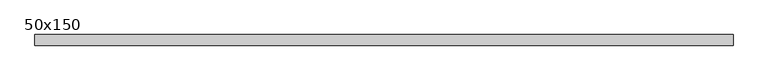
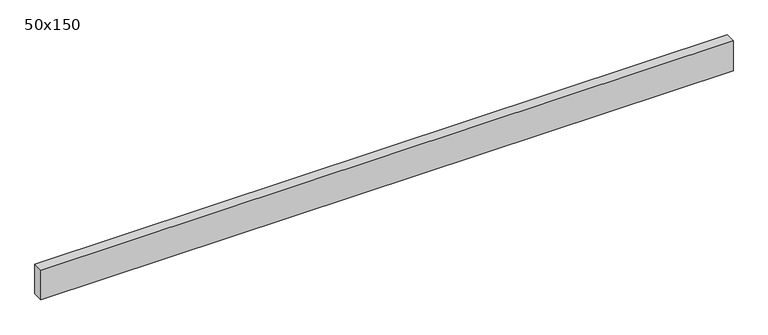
"""IFC4 building model written with IfcOpenShell, lengths in millimetres: beam geometry, Graded Timber : 50x150."""

from ifc_helpers import new_model, si_unit, frame, origin, place, context, project, spatial, polyline, outline, extrude, source, transform, mapped, element, save


def beam_50x150_77f3f083(model_context):
    return source(origin(), model_context, "Body", "SweptSolid", [
        extrude(outline(polyline([(1642.5, 25.0), (1642.5, -25.0), (-1648.5356992, -25.0), (-1648.5356992, 25.0), (1642.5, 25.0)])), frame((0.0, 0.0, -75.0), z_axis=(0.0, 0.0, 1.0), x_axis=(1.0, 0.0, 0.0)), (0.0, 0.0, 1.0), 150.0),
    ])


if __name__ == "__main__":
    model = new_model("IFC4")
    model_context = context("Model", 3, world=origin())
    ifc_project = project(units=[si_unit("LENGTHUNIT", "METRE", prefix="MILLI")], contexts=[model_context])
    site = spatial("IfcSite", under=ifc_project)
    building = spatial("IfcBuilding", under=site)
    placement = place(None, origin())
    beam_50x150_shape = beam_50x150_77f3f083(model_context)
    element("IfcBeam", 1, ObjectType="Graded Timber : 50x150", at=placement, inside=building, context=model_context, shape_type="MappedRepresentation", body=[
        mapped(beam_50x150_shape, transform((0.0, 0.0, 0.0), x_axis=(1.0, 0.0, 0.0), y_axis=(0.0, 1.0, 0.0), z_axis=(0.0, 0.0, 1.0))),
    ])
    save(model, "model.ifc")
